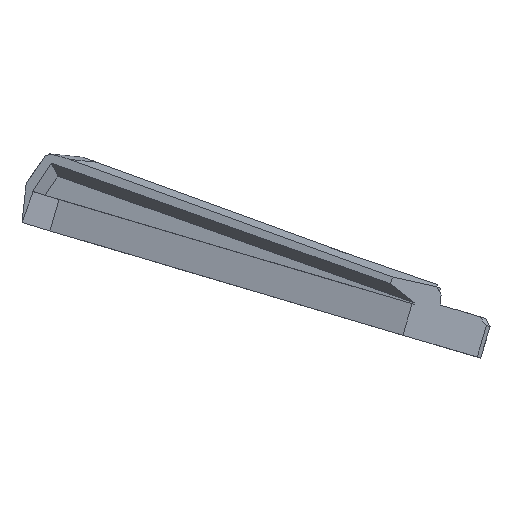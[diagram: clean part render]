
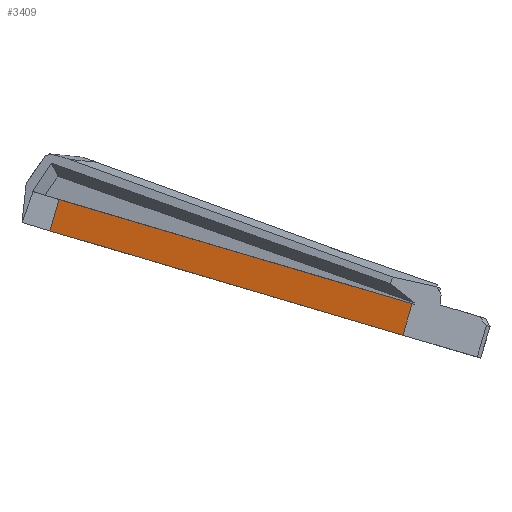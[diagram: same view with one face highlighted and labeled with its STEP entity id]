
A CAD part, left-side view. The second image highlights one B-rep face of the part: STEP entity #3409.
In plain terms, the highlighted planar face has unit normal (-0.944, 0.318, 0.094).
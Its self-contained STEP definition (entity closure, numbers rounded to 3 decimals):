
#139=FACE_OUTER_BOUND('',#327,.T.);
#327=EDGE_LOOP('',(#2311,#2312,#2313,#2314));
#535=LINE('',#4815,#970);
#558=LINE('',#4870,#993);
#588=LINE('',#4988,#1023);
#589=LINE('',#4989,#1024);
#970=VECTOR('',#3873,10.);
#993=VECTOR('',#3908,10.);
#1023=VECTOR('',#3948,10.);
#1024=VECTOR('',#3949,10.);
#1405=VERTEX_POINT('',#4812);
#1406=VERTEX_POINT('',#4814);
#1426=VERTEX_POINT('',#4869);
#1460=VERTEX_POINT('',#4987);
#1734=EDGE_CURVE('',#1406,#1405,#535,.T.);
#1759=EDGE_CURVE('',#1406,#1426,#558,.T.);
#1794=EDGE_CURVE('',#1405,#1460,#588,.T.);
#1795=EDGE_CURVE('',#1426,#1460,#589,.T.);
#2311=ORIENTED_EDGE('',*,*,#1734,.T.);
#2312=ORIENTED_EDGE('',*,*,#1794,.T.);
#2313=ORIENTED_EDGE('',*,*,#1795,.F.);
#2314=ORIENTED_EDGE('',*,*,#1759,.F.);
#3249=PLANE('',#3614);
#3409=ADVANCED_FACE('',(#139),#3249,.F.);
#3614=AXIS2_PLACEMENT_3D('',#4986,#3946,#3947);
#3873=DIRECTION('',(0.,-0.283,0.959));
#3908=DIRECTION('',(0.331,0.905,0.267));
#3946=DIRECTION('center_axis',(0.944,-0.318,-0.094));
#3947=DIRECTION('ref_axis',(0.331,0.905,0.267));
#3948=DIRECTION('',(0.331,0.905,0.267));
#3949=DIRECTION('',(0.,-0.283,0.959));
#4812=CARTESIAN_POINT('',(-155.155,-131.072,-53.7));
#4814=CARTESIAN_POINT('',(-155.155,-128.254,-63.235));
#4815=CARTESIAN_POINT('',(-155.155,-128.254,-63.235));
#4869=CARTESIAN_POINT('',(-115.904,-20.982,-31.532));
#4870=CARTESIAN_POINT('',(-155.904,-130.302,-63.84));
#4986=CARTESIAN_POINT('Origin',(-161.04,-144.337,-67.989));
#4987=CARTESIAN_POINT('',(-115.904,-23.8,-21.997));
#4988=CARTESIAN_POINT('',(-160.24,-144.971,-57.808));
#4989=CARTESIAN_POINT('',(-115.904,-20.982,-31.532));
